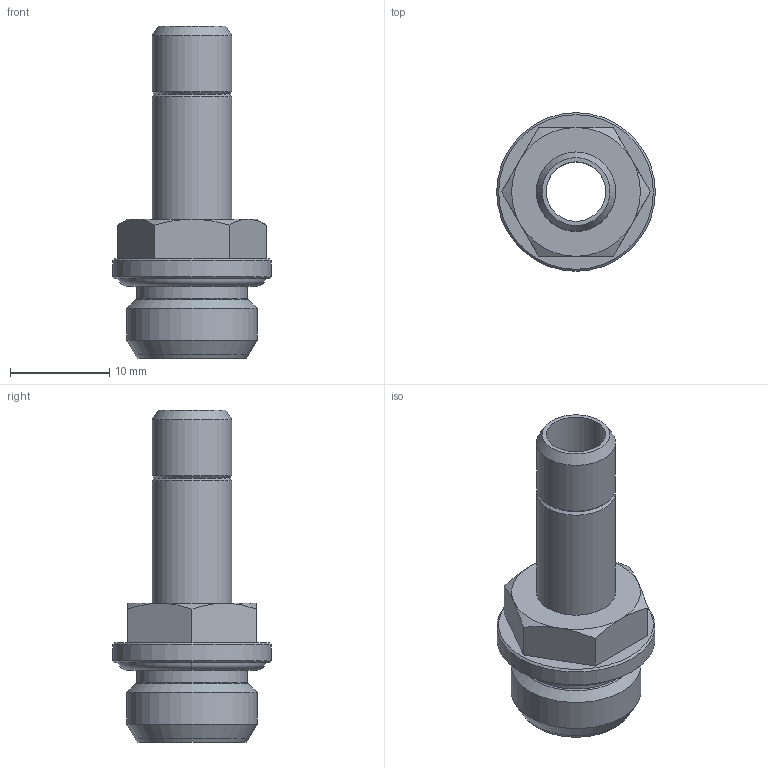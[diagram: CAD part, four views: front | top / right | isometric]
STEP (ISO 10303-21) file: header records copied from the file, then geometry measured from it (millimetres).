
FILE_DESCRIPTION(('Bauteilbeschreibung','HiCAD-Model','HiCAD-STEP-TRANSLATION','Bauteilbeschreibung'),'2;1');
FILE_NAME('B:/ABGLEICH/ZEICHNUNGEN/STEP FÜR INTERNET/STEP/IPSO 06/200610_IPSO_06_8_1-4.STP','2012-03-01T12:24:19+00:00',('Konstrukteur'),('Konstrukteur Firma GmbH'),' HiCAD neXt 2008, Step 3.1.1401.2J ','HiCAD neXt 2008','confidential');
FILE_SCHEMA(('AUTOMOTIVE_DESIGN { 1 2 10303 214 0 1 1 1 }'));
Length unit declared in the file: millimetre
Products named in the file (5): A00610_IPSO_06_8_1_4; A00610; A006100; G 1_4; OR 11_11X1_78
Assembly tree (4 placements, depth 3):
  A00610_IPSO_06_8_1_4
    A00610
    A006100
      G 1_4
    OR 11_11X1_78
Bounding box: 16 x 16 x 33.5 mm (x, y, z)
Volume: 1813.3 mm3; surface area: 2771.3 mm2
Topology: 3 solids, 3 shells, 45 faces, 98 edges, 59 vertices
Faces by surface type: cone 18, plane 12, cylinder 9, torus 6
Full cylindrical faces by diameter (mm): 6 x1, 7.5 x1, 8 x2, 11.2 x1, 11.445 x2, 13.157 x1, 16 x1
Entity records: 1444 total; most frequent: DIRECTION 202, CARTESIAN_POINT 193, ORIENTED_EDGE 132, AXIS2_PLACEMENT_3D 95, EDGE_LOOP 74, EDGE_CURVE 66, COLOUR_RGB 61, PRESENTATION_STYLE_ASSIGNMENT 61
